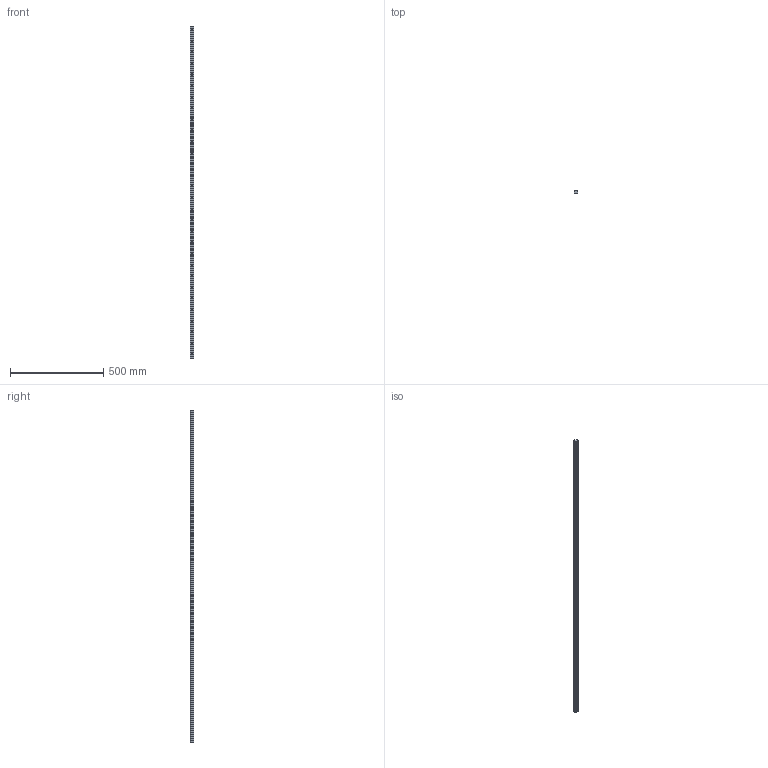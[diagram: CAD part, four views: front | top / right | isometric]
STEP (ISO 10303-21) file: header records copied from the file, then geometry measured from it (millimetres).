
FILE_DESCRIPTION (( 'STEP AP203' ), '1' );
FILE_NAME ('L1016.BL20-1780.step', '2019-06-12T11:50:35', ( '' ), ( '' ), 'SwSTEP 2.0', 'SolidWorks 2017', '' );
FILE_SCHEMA (( 'CONFIG_CONTROL_DESIGN' ));
Length unit declared in the file: millimetre
Products named in the file (1): L1016.BL20-1780
Bounding box: 20 x 16.3 x 1780 mm (x, y, z)
Volume: 494685.8 mm3; surface area: 143448.9 mm2
Topology: 1 solids, 1 shells, 176 faces, 432 edges, 288 vertices
Faces by surface type: cylinder 124, plane 52
Entity records: 5521 total; most frequent: DIRECTION 1034, CARTESIAN_POINT 897, ORIENTED_EDGE 864, EDGE_CURVE 432, AXIS2_PLACEMENT_3D 425, VERTEX_POINT 288, EDGE_LOOP 266, CIRCLE 248
